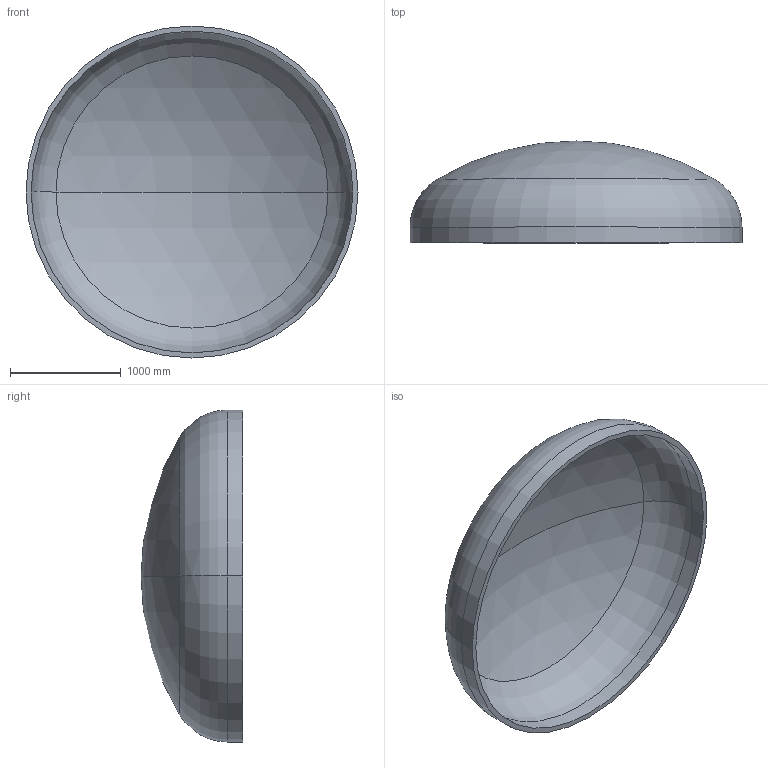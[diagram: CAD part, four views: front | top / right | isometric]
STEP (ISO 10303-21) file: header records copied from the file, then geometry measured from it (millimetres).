
FILE_DESCRIPTION (( 'STEP AP203' ), '1' );
FILE_NAME ('DIN 28013 Korbbogenform_-_Boden DIN 28013 - 3000 x 140 - I - s=46.step', '2016-07-01T17:49:34', ( '' ), ( '' ), 'SwSTEP 2.0', 'SolidWorks 2013', '' );
FILE_SCHEMA (( 'CONFIG_CONTROL_DESIGN' ));
Length unit declared in the file: millimetre
Products named in the file (1): DIN 28013 Korbbogenform_-_Boden DIN 28013 - 3000 x 140 - I - s=46
Bounding box: 3000 x 920 x 3000 mm (x, y, z)
Volume: 500696900.2 mm3; surface area: 22200746.9 mm2
Topology: 1 solids, 1 shells, 13 faces, 24 edges, 14 vertices
Faces by surface type: torus 4, cylinder 4, sphere 4, plane 1
Entity records: 407 total; most frequent: DIRECTION 72, CARTESIAN_POINT 52, ORIENTED_EDGE 48, AXIS2_PLACEMENT_3D 34, EDGE_CURVE 24, CIRCLE 20, VERTEX_POINT 14, EDGE_LOOP 14
